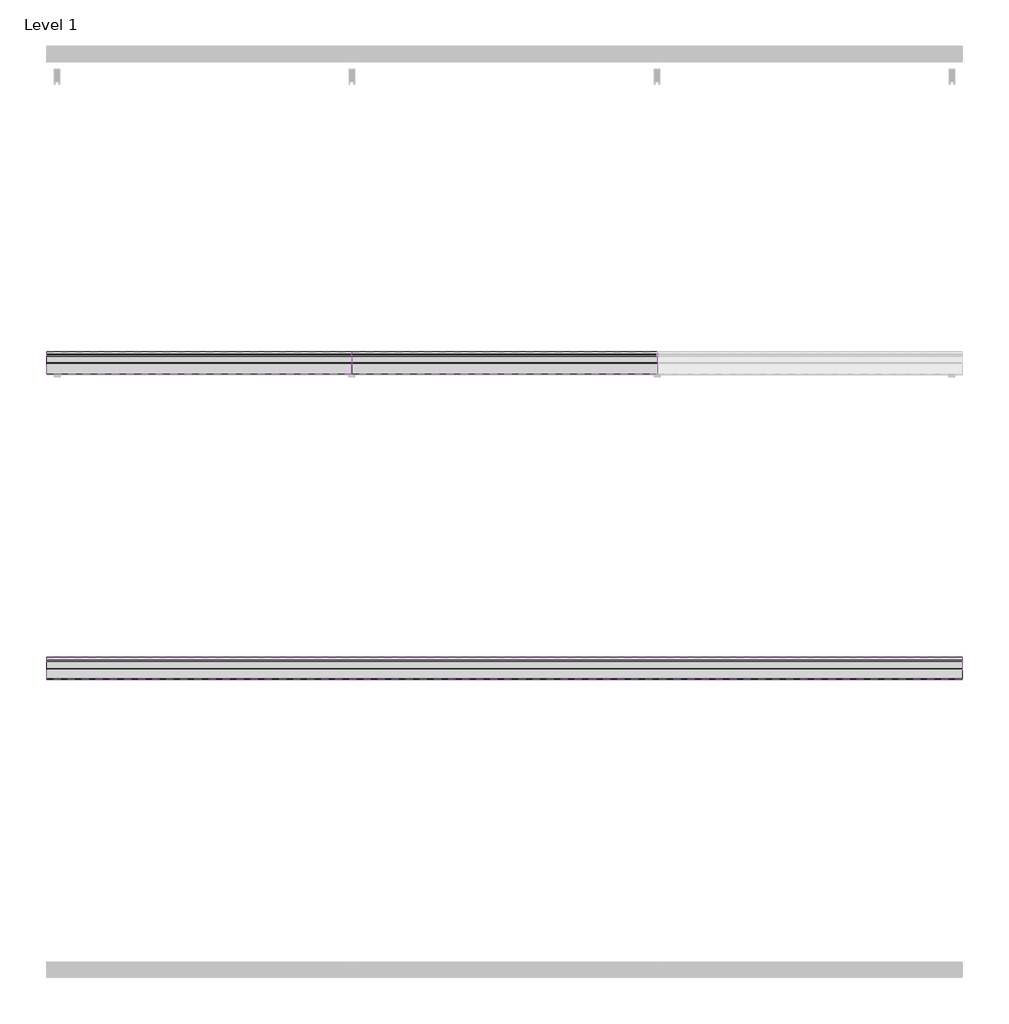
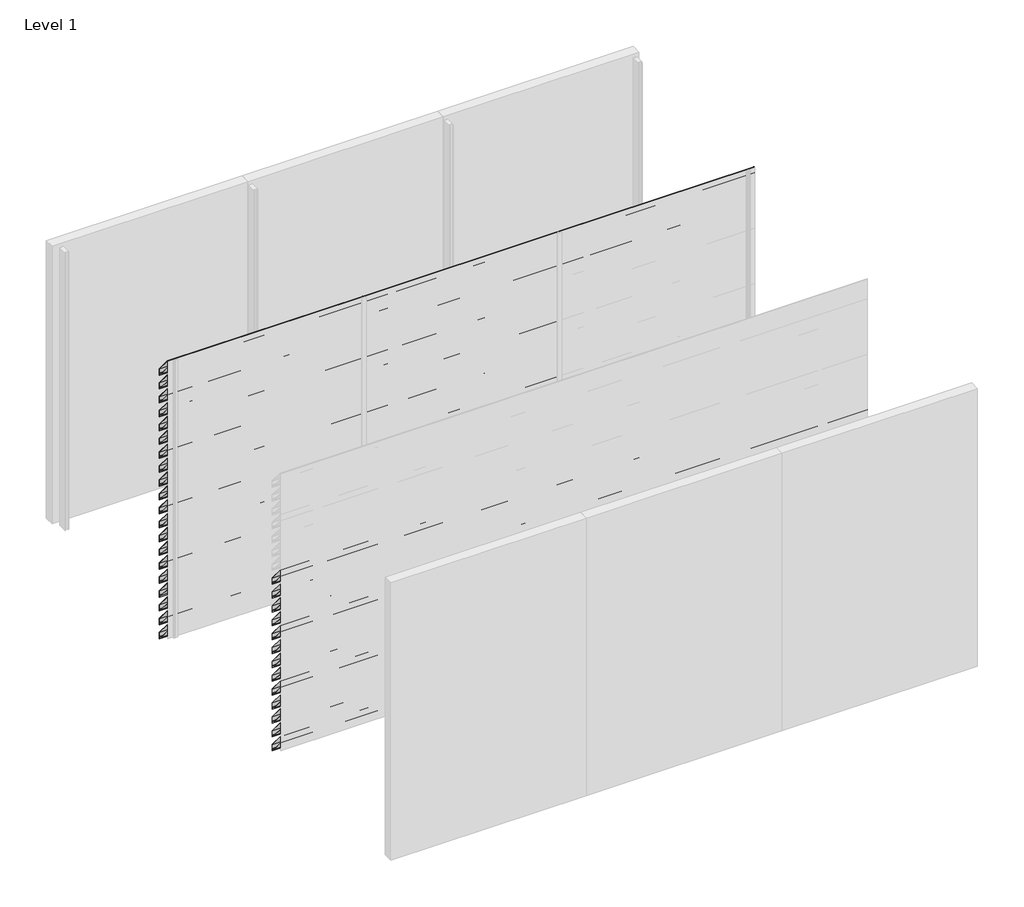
# One storey, part 10 of 16: 56 proxies.
"""IFC4 building model written with IfcOpenShell, lengths in millimetres."""

from ifc_helpers import new_model, si_unit, frame, origin, place, context, project, spatial, polyline, outline, extrude, element, save

model = new_model("IFC4")

# Units and contexts
model_context = context("Model", 3, world=origin())
ifc_project = project(units=[si_unit("LENGTHUNIT", "METRE", prefix="MILLI")], contexts=[model_context])

# Site, building, storey
site = spatial("IfcSite", under=ifc_project)
building = spatial("IfcBuilding", under=site)
storey = spatial("IfcBuildingStorey", under=building, Name="Level 1", Elevation=0.0)

# Proxies
placement = place(None, origin())
element("IfcBuildingElementProxy", 1, Name="Wall Sweeps", at=placement, inside=storey, context=model_context, shape_type="SweptSolid", body=[
    extrude(outline(polyline([(-23851.0, 2830.0), (-23851.0, 2761.0), (-23853.5, 2762.1657691), (-23853.5, 2775.7059843), (-23870.2498671, 2795.6676986), (-23880.9351065, 2795.6676986), (-23998.0, 2935.1802059), (-23998.0, 3000.0), (-23993.6469373, 3000.0), (-23851.0, 2830.0)]), holes=[polyline([(-23996.1, 2998.1), (-23996.1, 2935.8717493), (-23880.049122, 2797.5676986), (-23869.3638825, 2797.5676986), (-23852.9, 2777.9468074), (-23852.9, 2829.3084566), (-23994.5329219, 2998.1), (-23996.1, 2998.1)])]), frame((0.0, 0.0, 0.0), z_axis=(1.0, 0.0, 0.0), x_axis=(0.0, 1.0, 0.0)), (0.0, 0.0, 1.0), 2000.0),
])
element("IfcBuildingElementProxy", 2, Name="Wall Sweeps", at=placement, inside=storey, context=model_context, shape_type="SweptSolid", body=[
    extrude(outline(polyline([(-23851.0, 2680.0), (-23851.0, 2611.0), (-23853.5, 2612.1657691), (-23853.5, 2625.7059843), (-23870.2498671, 2645.6676986), (-23880.9351065, 2645.6676986), (-23998.0, 2785.1802059), (-23998.0, 2850.0), (-23993.6469373, 2850.0), (-23851.0, 2680.0)]), holes=[polyline([(-23996.1, 2848.1), (-23996.1, 2785.8717493), (-23880.049122, 2647.5676986), (-23869.3638825, 2647.5676986), (-23852.9, 2627.9468074), (-23852.9, 2679.3084566), (-23994.5329219, 2848.1), (-23996.1, 2848.1)])]), frame((0.0, 0.0, 0.0), z_axis=(1.0, 0.0, 0.0), x_axis=(0.0, 1.0, 0.0)), (0.0, 0.0, 1.0), 2000.0),
])
element("IfcBuildingElementProxy", 3, Name="Wall Sweeps", at=placement, inside=storey, context=model_context, shape_type="SweptSolid", body=[
    extrude(outline(polyline([(-23851.0, 2530.0), (-23851.0, 2461.0), (-23853.5, 2462.1657691), (-23853.5, 2475.7059843), (-23870.2498671, 2495.6676986), (-23880.9351065, 2495.6676986), (-23998.0, 2635.1802059), (-23998.0, 2700.0), (-23993.6469373, 2700.0), (-23851.0, 2530.0)]), holes=[polyline([(-23996.1, 2698.1), (-23996.1, 2635.8717493), (-23880.049122, 2497.5676986), (-23869.3638825, 2497.5676986), (-23852.9, 2477.9468074), (-23852.9, 2529.3084566), (-23994.5329219, 2698.1), (-23996.1, 2698.1)])]), frame((0.0, 0.0, 0.0), z_axis=(1.0, 0.0, 0.0), x_axis=(0.0, 1.0, 0.0)), (0.0, 0.0, 1.0), 2000.0),
])
element("IfcBuildingElementProxy", 4, Name="Wall Sweeps", at=placement, inside=storey, context=model_context, shape_type="SweptSolid", body=[
    extrude(outline(polyline([(-23851.0, 2380.0), (-23851.0, 2311.0), (-23853.5, 2312.1657691), (-23853.5, 2325.7059843), (-23870.2498671, 2345.6676986), (-23880.9351065, 2345.6676986), (-23998.0, 2485.1802059), (-23998.0, 2550.0), (-23993.6469373, 2550.0), (-23851.0, 2380.0)]), holes=[polyline([(-23996.1, 2548.1), (-23996.1, 2485.8717493), (-23880.049122, 2347.5676986), (-23869.3638825, 2347.5676986), (-23852.9, 2327.9468074), (-23852.9, 2379.3084566), (-23994.5329219, 2548.1), (-23996.1, 2548.1)])]), frame((0.0, 0.0, 0.0), z_axis=(1.0, 0.0, 0.0), x_axis=(0.0, 1.0, 0.0)), (0.0, 0.0, 1.0), 2000.0),
])
element("IfcBuildingElementProxy", 5, Name="Wall Sweeps", at=placement, inside=storey, context=model_context, shape_type="SweptSolid", body=[
    extrude(outline(polyline([(-23851.0, 2230.0), (-23851.0, 2161.0), (-23853.5, 2162.1657691), (-23853.5, 2175.7059843), (-23870.2498671, 2195.6676986), (-23880.9351065, 2195.6676986), (-23998.0, 2335.1802059), (-23998.0, 2400.0), (-23993.6469373, 2400.0), (-23851.0, 2230.0)]), holes=[polyline([(-23996.1, 2398.1), (-23996.1, 2335.8717493), (-23880.049122, 2197.5676986), (-23869.3638825, 2197.5676986), (-23852.9, 2177.9468074), (-23852.9, 2229.3084566), (-23994.5329219, 2398.1), (-23996.1, 2398.1)])]), frame((0.0, 0.0, 0.0), z_axis=(1.0, 0.0, 0.0), x_axis=(0.0, 1.0, 0.0)), (0.0, 0.0, 1.0), 2000.0),
])
element("IfcBuildingElementProxy", 6, Name="Wall Sweeps", at=placement, inside=storey, context=model_context, shape_type="SweptSolid", body=[
    extrude(outline(polyline([(-23851.0, 2080.0), (-23851.0, 2011.0), (-23853.5, 2012.1657691), (-23853.5, 2025.7059843), (-23870.2498671, 2045.6676986), (-23880.9351065, 2045.6676986), (-23998.0, 2185.1802059), (-23998.0, 2250.0), (-23993.6469373, 2250.0), (-23851.0, 2080.0)]), holes=[polyline([(-23996.1, 2248.1), (-23996.1, 2185.8717493), (-23880.049122, 2047.5676986), (-23869.3638825, 2047.5676986), (-23852.9, 2027.9468074), (-23852.9, 2079.3084566), (-23994.5329219, 2248.1), (-23996.1, 2248.1)])]), frame((0.0, 0.0, 0.0), z_axis=(1.0, 0.0, 0.0), x_axis=(0.0, 1.0, 0.0)), (0.0, 0.0, 1.0), 2000.0),
])
element("IfcBuildingElementProxy", 7, Name="Wall Sweeps", at=placement, inside=storey, context=model_context, shape_type="SweptSolid", body=[
    extrude(outline(polyline([(-23851.0, 1930.0), (-23851.0, 1861.0), (-23853.5, 1862.1657691), (-23853.5, 1875.7059843), (-23870.2498671, 1895.6676986), (-23880.9351065, 1895.6676986), (-23998.0, 2035.1802059), (-23998.0, 2100.0), (-23993.6469373, 2100.0), (-23851.0, 1930.0)]), holes=[polyline([(-23996.1, 2098.1), (-23996.1, 2035.8717493), (-23880.049122, 1897.5676986), (-23869.3638825, 1897.5676986), (-23852.9, 1877.9468074), (-23852.9, 1929.3084566), (-23994.5329219, 2098.1), (-23996.1, 2098.1)])]), frame((0.0, 0.0, 0.0), z_axis=(1.0, 0.0, 0.0), x_axis=(0.0, 1.0, 0.0)), (0.0, 0.0, 1.0), 2000.0),
])
element("IfcBuildingElementProxy", 8, Name="Wall Sweeps", at=placement, inside=storey, context=model_context, shape_type="SweptSolid", body=[
    extrude(outline(polyline([(-23851.0, 1780.0), (-23851.0, 1711.0), (-23853.5, 1712.1657691), (-23853.5, 1725.7059843), (-23870.2498671, 1745.6676986), (-23880.9351065, 1745.6676986), (-23998.0, 1885.1802059), (-23998.0, 1950.0), (-23993.6469373, 1950.0), (-23851.0, 1780.0)]), holes=[polyline([(-23996.1, 1948.1), (-23996.1, 1885.8717493), (-23880.049122, 1747.5676986), (-23869.3638825, 1747.5676986), (-23852.9, 1727.9468074), (-23852.9, 1779.3084566), (-23994.5329219, 1948.1), (-23996.1, 1948.1)])]), frame((0.0, 0.0, 0.0), z_axis=(1.0, 0.0, 0.0), x_axis=(0.0, 1.0, 0.0)), (0.0, 0.0, 1.0), 2000.0),
])
element("IfcBuildingElementProxy", 9, Name="Wall Sweeps", at=placement, inside=storey, context=model_context, shape_type="SweptSolid", body=[
    extrude(outline(polyline([(-23851.0, 1630.0), (-23851.0, 1561.0), (-23853.5, 1562.1657691), (-23853.5, 1575.7059843), (-23870.2498671, 1595.6676986), (-23880.9351065, 1595.6676986), (-23998.0, 1735.1802059), (-23998.0, 1800.0), (-23993.6469373, 1800.0), (-23851.0, 1630.0)]), holes=[polyline([(-23996.1, 1798.1), (-23996.1, 1735.8717493), (-23880.049122, 1597.5676986), (-23869.3638825, 1597.5676986), (-23852.9, 1577.9468074), (-23852.9, 1629.3084566), (-23994.5329219, 1798.1), (-23996.1, 1798.1)])]), frame((0.0, 0.0, 0.0), z_axis=(1.0, 0.0, 0.0), x_axis=(0.0, 1.0, 0.0)), (0.0, 0.0, 1.0), 2000.0),
])
element("IfcBuildingElementProxy", 10, Name="Wall Sweeps", at=placement, inside=storey, context=model_context, shape_type="SweptSolid", body=[
    extrude(outline(polyline([(-23851.0, 1480.0), (-23851.0, 1411.0), (-23853.5, 1412.1657691), (-23853.5, 1425.7059843), (-23870.2498671, 1445.6676986), (-23880.9351065, 1445.6676986), (-23998.0, 1585.1802059), (-23998.0, 1650.0), (-23993.6469373, 1650.0), (-23851.0, 1480.0)]), holes=[polyline([(-23996.1, 1648.1), (-23996.1, 1585.8717493), (-23880.049122, 1447.5676986), (-23869.3638825, 1447.5676986), (-23852.9, 1427.9468074), (-23852.9, 1479.3084566), (-23994.5329219, 1648.1), (-23996.1, 1648.1)])]), frame((0.0, 0.0, 0.0), z_axis=(1.0, 0.0, 0.0), x_axis=(0.0, 1.0, 0.0)), (0.0, 0.0, 1.0), 2000.0),
])
element("IfcBuildingElementProxy", 11, Name="Wall Sweeps", at=placement, inside=storey, context=model_context, shape_type="SweptSolid", body=[
    extrude(outline(polyline([(-23851.0, 1330.0), (-23851.0, 1261.0), (-23853.5, 1262.1657691), (-23853.5, 1275.7059843), (-23870.2498671, 1295.6676986), (-23880.9351065, 1295.6676986), (-23998.0, 1435.1802059), (-23998.0, 1500.0), (-23993.6469373, 1500.0), (-23851.0, 1330.0)]), holes=[polyline([(-23996.1, 1498.1), (-23996.1, 1435.8717493), (-23880.049122, 1297.5676986), (-23869.3638825, 1297.5676986), (-23852.9, 1277.9468074), (-23852.9, 1329.3084566), (-23994.5329219, 1498.1), (-23996.1, 1498.1)])]), frame((0.0, 0.0, 0.0), z_axis=(1.0, 0.0, 0.0), x_axis=(0.0, 1.0, 0.0)), (0.0, 0.0, 1.0), 2000.0),
])
element("IfcBuildingElementProxy", 12, Name="Wall Sweeps", at=placement, inside=storey, context=model_context, shape_type="SweptSolid", body=[
    extrude(outline(polyline([(-23851.0, 1180.0), (-23851.0, 1111.0), (-23853.5, 1112.1657691), (-23853.5, 1125.7059843), (-23870.2498671, 1145.6676986), (-23880.9351065, 1145.6676986), (-23998.0, 1285.1802059), (-23998.0, 1350.0), (-23993.6469373, 1350.0), (-23851.0, 1180.0)]), holes=[polyline([(-23996.1, 1348.1), (-23996.1, 1285.8717493), (-23880.049122, 1147.5676986), (-23869.3638825, 1147.5676986), (-23852.9, 1127.9468074), (-23852.9, 1179.3084566), (-23994.5329219, 1348.1), (-23996.1, 1348.1)])]), frame((0.0, 0.0, 0.0), z_axis=(1.0, 0.0, 0.0), x_axis=(0.0, 1.0, 0.0)), (0.0, 0.0, 1.0), 2000.0),
])
element("IfcBuildingElementProxy", 13, Name="Wall Sweeps", at=placement, inside=storey, context=model_context, shape_type="SweptSolid", body=[
    extrude(outline(polyline([(-23851.0, 1030.0), (-23851.0, 961.0), (-23853.5, 962.1657691), (-23853.5, 975.7059843), (-23870.2498671, 995.6676986), (-23880.9351065, 995.6676986), (-23998.0, 1135.1802059), (-23998.0, 1200.0), (-23993.6469373, 1200.0), (-23851.0, 1030.0)]), holes=[polyline([(-23996.1, 1198.1), (-23996.1, 1135.8717493), (-23880.049122, 997.5676986), (-23869.3638825, 997.5676986), (-23852.9, 977.9468074), (-23852.9, 1029.3084566), (-23994.5329219, 1198.1), (-23996.1, 1198.1)])]), frame((0.0, 0.0, 0.0), z_axis=(1.0, 0.0, 0.0), x_axis=(0.0, 1.0, 0.0)), (0.0, 0.0, 1.0), 2000.0),
])
element("IfcBuildingElementProxy", 14, Name="Wall Sweeps", at=placement, inside=storey, context=model_context, shape_type="SweptSolid", body=[
    extrude(outline(polyline([(-23851.0, 880.0), (-23851.0, 811.0), (-23853.5, 812.1657691), (-23853.5, 825.7059843), (-23870.2498671, 845.6676986), (-23880.9351065, 845.6676986), (-23998.0, 985.1802059), (-23998.0, 1050.0), (-23993.6469373, 1050.0), (-23851.0, 880.0)]), holes=[polyline([(-23996.1, 1048.1), (-23996.1, 985.8717493), (-23880.049122, 847.5676986), (-23869.3638825, 847.5676986), (-23852.9, 827.9468074), (-23852.9, 879.3084566), (-23994.5329219, 1048.1), (-23996.1, 1048.1)])]), frame((0.0, 0.0, 0.0), z_axis=(1.0, 0.0, 0.0), x_axis=(0.0, 1.0, 0.0)), (0.0, 0.0, 1.0), 2000.0),
])
element("IfcBuildingElementProxy", 15, Name="Wall Sweeps", at=placement, inside=storey, context=model_context, shape_type="SweptSolid", body=[
    extrude(outline(polyline([(-23851.0, 730.0), (-23851.0, 661.0), (-23853.5, 662.1657691), (-23853.5, 675.7059843), (-23870.2498671, 695.6676986), (-23880.9351065, 695.6676986), (-23998.0, 835.1802059), (-23998.0, 900.0), (-23993.6469373, 900.0), (-23851.0, 730.0)]), holes=[polyline([(-23996.1, 898.1), (-23996.1, 835.8717493), (-23880.049122, 697.5676986), (-23869.3638825, 697.5676986), (-23852.9, 677.9468074), (-23852.9, 729.3084566), (-23994.5329219, 898.1), (-23996.1, 898.1)])]), frame((0.0, 0.0, 0.0), z_axis=(1.0, 0.0, 0.0), x_axis=(0.0, 1.0, 0.0)), (0.0, 0.0, 1.0), 2000.0),
])
element("IfcBuildingElementProxy", 16, Name="Wall Sweeps", at=placement, inside=storey, context=model_context, shape_type="SweptSolid", body=[
    extrude(outline(polyline([(-23851.0, 580.0), (-23851.0, 511.0), (-23853.5, 512.1657691), (-23853.5, 525.7059843), (-23870.2498671, 545.6676986), (-23880.9351065, 545.6676986), (-23998.0, 685.1802059), (-23998.0, 750.0), (-23993.6469373, 750.0), (-23851.0, 580.0)]), holes=[polyline([(-23996.1, 748.1), (-23996.1, 685.8717493), (-23880.049122, 547.5676986), (-23869.3638825, 547.5676986), (-23852.9, 527.9468074), (-23852.9, 579.3084566), (-23994.5329219, 748.1), (-23996.1, 748.1)])]), frame((0.0, 0.0, 0.0), z_axis=(1.0, 0.0, 0.0), x_axis=(0.0, 1.0, 0.0)), (0.0, 0.0, 1.0), 2000.0),
])
element("IfcBuildingElementProxy", 17, Name="Wall Sweeps", at=placement, inside=storey, context=model_context, shape_type="SweptSolid", body=[
    extrude(outline(polyline([(-23851.0, 430.0), (-23851.0, 361.0), (-23853.5, 362.1657691), (-23853.5, 375.7059843), (-23870.2498671, 395.6676986), (-23880.9351065, 395.6676986), (-23998.0, 535.1802059), (-23998.0, 600.0), (-23993.6469373, 600.0), (-23851.0, 430.0)]), holes=[polyline([(-23996.1, 598.1), (-23996.1, 535.8717493), (-23880.049122, 397.5676986), (-23869.3638825, 397.5676986), (-23852.9, 377.9468074), (-23852.9, 429.3084566), (-23994.5329219, 598.1), (-23996.1, 598.1)])]), frame((0.0, 0.0, 0.0), z_axis=(1.0, 0.0, 0.0), x_axis=(0.0, 1.0, 0.0)), (0.0, 0.0, 1.0), 2000.0),
])
element("IfcBuildingElementProxy", 18, Name="Wall Sweeps", at=placement, inside=storey, context=model_context, shape_type="SweptSolid", body=[
    extrude(outline(polyline([(-23851.0, 280.0), (-23851.0, 211.0), (-23853.5, 212.1657691), (-23853.5, 225.7059843), (-23870.2498671, 245.6676986), (-23880.9351065, 245.6676986), (-23998.0, 385.1802059), (-23998.0, 450.0), (-23993.6469373, 450.0), (-23851.0, 280.0)]), holes=[polyline([(-23996.1, 448.1), (-23996.1, 385.8717493), (-23880.049122, 247.5676986), (-23869.3638825, 247.5676986), (-23852.9, 227.9468074), (-23852.9, 279.3084566), (-23994.5329219, 448.1), (-23996.1, 448.1)])]), frame((0.0, 0.0, 0.0), z_axis=(1.0, 0.0, 0.0), x_axis=(0.0, 1.0, 0.0)), (0.0, 0.0, 1.0), 2000.0),
])
element("IfcBuildingElementProxy", 19, Name="Wall Sweeps", at=placement, inside=storey, context=model_context, shape_type="SweptSolid", body=[
    extrude(outline(polyline([(-23851.0, 130.0), (-23851.0, 61.0), (-23853.5, 62.1657691), (-23853.5, 75.7059843), (-23870.2498671, 95.6676986), (-23880.9351065, 95.6676986), (-23998.0, 235.1802059), (-23998.0, 300.0), (-23993.6469373, 300.0), (-23851.0, 130.0)]), holes=[polyline([(-23996.1, 298.1), (-23996.1, 235.8717493), (-23880.049122, 97.5676986), (-23869.3638825, 97.5676986), (-23852.9, 77.9468074), (-23852.9, 129.3084566), (-23994.5329219, 298.1), (-23996.1, 298.1)])]), frame((0.0, 0.0, 0.0), z_axis=(1.0, 0.0, 0.0), x_axis=(0.0, 1.0, 0.0)), (0.0, 0.0, 1.0), 2000.0),
])
element("IfcBuildingElementProxy", 20, Name="Wall Sweeps", at=placement, inside=storey, context=model_context, shape_type="SweptSolid", body=[
    extrude(outline(polyline([(-23851.0, -20.0), (-23851.0, -89.0), (-23853.5, -87.8342309), (-23853.5, -74.2940157), (-23870.2498671, -54.3323014), (-23880.9351065, -54.3323014), (-23998.0, 85.1802059), (-23998.0, 150.0), (-23993.6469373, 150.0), (-23851.0, -20.0)]), holes=[polyline([(-23996.1, 148.1), (-23996.1, 85.8717493), (-23880.049122, -52.4323014), (-23869.3638825, -52.4323014), (-23852.9, -72.0531926), (-23852.9, -20.6915434), (-23994.5329219, 148.1), (-23996.1, 148.1)])]), frame((0.0, 0.0, 0.0), z_axis=(1.0, 0.0, 0.0), x_axis=(0.0, 1.0, 0.0)), (0.0, 0.0, 1.0), 2000.0),
])
element("IfcBuildingElementProxy", 21, Name="Wall Sweeps", at=placement, inside=storey, context=model_context, shape_type="SweptSolid", body=[
    extrude(outline(polyline([(-23851.0, 2830.0), (-23851.0, 2761.0), (-23853.5, 2762.1657691), (-23853.5, 2775.7059843), (-23870.2498671, 2795.6676986), (-23880.9351065, 2795.6676986), (-23998.0, 2935.1802059), (-23998.0, 3000.0), (-23993.6469373, 3000.0), (-23851.0, 2830.0)]), holes=[polyline([(-23996.1, 2998.1), (-23996.1, 2935.8717493), (-23880.049122, 2797.5676986), (-23869.3638825, 2797.5676986), (-23852.9, 2777.9468074), (-23852.9, 2829.3084566), (-23994.5329219, 2998.1), (-23996.1, 2998.1)])]), frame((2000.0, 0.0, 0.0), z_axis=(1.0, 0.0, 0.0), x_axis=(0.0, 1.0, 0.0)), (0.0, 0.0, 1.0), 2000.0),
])
element("IfcBuildingElementProxy", 22, Name="Wall Sweeps", at=placement, inside=storey, context=model_context, shape_type="SweptSolid", body=[
    extrude(outline(polyline([(-23851.0, 2680.0), (-23851.0, 2611.0), (-23853.5, 2612.1657691), (-23853.5, 2625.7059843), (-23870.2498671, 2645.6676986), (-23880.9351065, 2645.6676986), (-23998.0, 2785.1802059), (-23998.0, 2850.0), (-23993.6469373, 2850.0), (-23851.0, 2680.0)]), holes=[polyline([(-23996.1, 2848.1), (-23996.1, 2785.8717493), (-23880.049122, 2647.5676986), (-23869.3638825, 2647.5676986), (-23852.9, 2627.9468074), (-23852.9, 2679.3084566), (-23994.5329219, 2848.1), (-23996.1, 2848.1)])]), frame((2000.0, 0.0, 0.0), z_axis=(1.0, 0.0, 0.0), x_axis=(0.0, 1.0, 0.0)), (0.0, 0.0, 1.0), 2000.0),
])
element("IfcBuildingElementProxy", 23, Name="Wall Sweeps", at=placement, inside=storey, context=model_context, shape_type="SweptSolid", body=[
    extrude(outline(polyline([(-23851.0, 2530.0), (-23851.0, 2461.0), (-23853.5, 2462.1657691), (-23853.5, 2475.7059843), (-23870.2498671, 2495.6676986), (-23880.9351065, 2495.6676986), (-23998.0, 2635.1802059), (-23998.0, 2700.0), (-23993.6469373, 2700.0), (-23851.0, 2530.0)]), holes=[polyline([(-23996.1, 2698.1), (-23996.1, 2635.8717493), (-23880.049122, 2497.5676986), (-23869.3638825, 2497.5676986), (-23852.9, 2477.9468074), (-23852.9, 2529.3084566), (-23994.5329219, 2698.1), (-23996.1, 2698.1)])]), frame((2000.0, 0.0, 0.0), z_axis=(1.0, 0.0, 0.0), x_axis=(0.0, 1.0, 0.0)), (0.0, 0.0, 1.0), 2000.0),
])
element("IfcBuildingElementProxy", 24, Name="Wall Sweeps", at=placement, inside=storey, context=model_context, shape_type="SweptSolid", body=[
    extrude(outline(polyline([(-23851.0, 2380.0), (-23851.0, 2311.0), (-23853.5, 2312.1657691), (-23853.5, 2325.7059843), (-23870.2498671, 2345.6676986), (-23880.9351065, 2345.6676986), (-23998.0, 2485.1802059), (-23998.0, 2550.0), (-23993.6469373, 2550.0), (-23851.0, 2380.0)]), holes=[polyline([(-23996.1, 2548.1), (-23996.1, 2485.8717493), (-23880.049122, 2347.5676986), (-23869.3638825, 2347.5676986), (-23852.9, 2327.9468074), (-23852.9, 2379.3084566), (-23994.5329219, 2548.1), (-23996.1, 2548.1)])]), frame((2000.0, 0.0, 0.0), z_axis=(1.0, 0.0, 0.0), x_axis=(0.0, 1.0, 0.0)), (0.0, 0.0, 1.0), 2000.0),
])
element("IfcBuildingElementProxy", 25, Name="Wall Sweeps", at=placement, inside=storey, context=model_context, shape_type="SweptSolid", body=[
    extrude(outline(polyline([(-23851.0, 2230.0), (-23851.0, 2161.0), (-23853.5, 2162.1657691), (-23853.5, 2175.7059843), (-23870.2498671, 2195.6676986), (-23880.9351065, 2195.6676986), (-23998.0, 2335.1802059), (-23998.0, 2400.0), (-23993.6469373, 2400.0), (-23851.0, 2230.0)]), holes=[polyline([(-23996.1, 2398.1), (-23996.1, 2335.8717493), (-23880.049122, 2197.5676986), (-23869.3638825, 2197.5676986), (-23852.9, 2177.9468074), (-23852.9, 2229.3084566), (-23994.5329219, 2398.1), (-23996.1, 2398.1)])]), frame((2000.0, 0.0, 0.0), z_axis=(1.0, 0.0, 0.0), x_axis=(0.0, 1.0, 0.0)), (0.0, 0.0, 1.0), 2000.0),
])
element("IfcBuildingElementProxy", 26, Name="Wall Sweeps", at=placement, inside=storey, context=model_context, shape_type="SweptSolid", body=[
    extrude(outline(polyline([(-23851.0, 2080.0), (-23851.0, 2011.0), (-23853.5, 2012.1657691), (-23853.5, 2025.7059843), (-23870.2498671, 2045.6676986), (-23880.9351065, 2045.6676986), (-23998.0, 2185.1802059), (-23998.0, 2250.0), (-23993.6469373, 2250.0), (-23851.0, 2080.0)]), holes=[polyline([(-23996.1, 2248.1), (-23996.1, 2185.8717493), (-23880.049122, 2047.5676986), (-23869.3638825, 2047.5676986), (-23852.9, 2027.9468074), (-23852.9, 2079.3084566), (-23994.5329219, 2248.1), (-23996.1, 2248.1)])]), frame((2000.0, 0.0, 0.0), z_axis=(1.0, 0.0, 0.0), x_axis=(0.0, 1.0, 0.0)), (0.0, 0.0, 1.0), 2000.0),
])
element("IfcBuildingElementProxy", 27, Name="Wall Sweeps", at=placement, inside=storey, context=model_context, shape_type="SweptSolid", body=[
    extrude(outline(polyline([(-23851.0, 1930.0), (-23851.0, 1861.0), (-23853.5, 1862.1657691), (-23853.5, 1875.7059843), (-23870.2498671, 1895.6676986), (-23880.9351065, 1895.6676986), (-23998.0, 2035.1802059), (-23998.0, 2100.0), (-23993.6469373, 2100.0), (-23851.0, 1930.0)]), holes=[polyline([(-23996.1, 2098.1), (-23996.1, 2035.8717493), (-23880.049122, 1897.5676986), (-23869.3638825, 1897.5676986), (-23852.9, 1877.9468074), (-23852.9, 1929.3084566), (-23994.5329219, 2098.1), (-23996.1, 2098.1)])]), frame((2000.0, 0.0, 0.0), z_axis=(1.0, 0.0, 0.0), x_axis=(0.0, 1.0, 0.0)), (0.0, 0.0, 1.0), 2000.0),
])
element("IfcBuildingElementProxy", 28, Name="Wall Sweeps", at=placement, inside=storey, context=model_context, shape_type="SweptSolid", body=[
    extrude(outline(polyline([(-23851.0, 1780.0), (-23851.0, 1711.0), (-23853.5, 1712.1657691), (-23853.5, 1725.7059843), (-23870.2498671, 1745.6676986), (-23880.9351065, 1745.6676986), (-23998.0, 1885.1802059), (-23998.0, 1950.0), (-23993.6469373, 1950.0), (-23851.0, 1780.0)]), holes=[polyline([(-23996.1, 1948.1), (-23996.1, 1885.8717493), (-23880.049122, 1747.5676986), (-23869.3638825, 1747.5676986), (-23852.9, 1727.9468074), (-23852.9, 1779.3084566), (-23994.5329219, 1948.1), (-23996.1, 1948.1)])]), frame((2000.0, 0.0, 0.0), z_axis=(1.0, 0.0, 0.0), x_axis=(0.0, 1.0, 0.0)), (0.0, 0.0, 1.0), 2000.0),
])
element("IfcBuildingElementProxy", 29, Name="Wall Sweeps", at=placement, inside=storey, context=model_context, shape_type="SweptSolid", body=[
    extrude(outline(polyline([(-23851.0, 1630.0), (-23851.0, 1561.0), (-23853.5, 1562.1657691), (-23853.5, 1575.7059843), (-23870.2498671, 1595.6676986), (-23880.9351065, 1595.6676986), (-23998.0, 1735.1802059), (-23998.0, 1800.0), (-23993.6469373, 1800.0), (-23851.0, 1630.0)]), holes=[polyline([(-23996.1, 1798.1), (-23996.1, 1735.8717493), (-23880.049122, 1597.5676986), (-23869.3638825, 1597.5676986), (-23852.9, 1577.9468074), (-23852.9, 1629.3084566), (-23994.5329219, 1798.1), (-23996.1, 1798.1)])]), frame((2000.0, 0.0, 0.0), z_axis=(1.0, 0.0, 0.0), x_axis=(0.0, 1.0, 0.0)), (0.0, 0.0, 1.0), 2000.0),
])
element("IfcBuildingElementProxy", 30, Name="Wall Sweeps", at=placement, inside=storey, context=model_context, shape_type="SweptSolid", body=[
    extrude(outline(polyline([(-23851.0, 1480.0), (-23851.0, 1411.0), (-23853.5, 1412.1657691), (-23853.5, 1425.7059843), (-23870.2498671, 1445.6676986), (-23880.9351065, 1445.6676986), (-23998.0, 1585.1802059), (-23998.0, 1650.0), (-23993.6469373, 1650.0), (-23851.0, 1480.0)]), holes=[polyline([(-23996.1, 1648.1), (-23996.1, 1585.8717493), (-23880.049122, 1447.5676986), (-23869.3638825, 1447.5676986), (-23852.9, 1427.9468074), (-23852.9, 1479.3084566), (-23994.5329219, 1648.1), (-23996.1, 1648.1)])]), frame((2000.0, 0.0, 0.0), z_axis=(1.0, 0.0, 0.0), x_axis=(0.0, 1.0, 0.0)), (0.0, 0.0, 1.0), 2000.0),
])
element("IfcBuildingElementProxy", 31, Name="Wall Sweeps", at=placement, inside=storey, context=model_context, shape_type="SweptSolid", body=[
    extrude(outline(polyline([(-23851.0, 1330.0), (-23851.0, 1261.0), (-23853.5, 1262.1657691), (-23853.5, 1275.7059843), (-23870.2498671, 1295.6676986), (-23880.9351065, 1295.6676986), (-23998.0, 1435.1802059), (-23998.0, 1500.0), (-23993.6469373, 1500.0), (-23851.0, 1330.0)]), holes=[polyline([(-23996.1, 1498.1), (-23996.1, 1435.8717493), (-23880.049122, 1297.5676986), (-23869.3638825, 1297.5676986), (-23852.9, 1277.9468074), (-23852.9, 1329.3084566), (-23994.5329219, 1498.1), (-23996.1, 1498.1)])]), frame((2000.0, 0.0, 0.0), z_axis=(1.0, 0.0, 0.0), x_axis=(0.0, 1.0, 0.0)), (0.0, 0.0, 1.0), 2000.0),
])
element("IfcBuildingElementProxy", 32, Name="Wall Sweeps", at=placement, inside=storey, context=model_context, shape_type="SweptSolid", body=[
    extrude(outline(polyline([(-23851.0, 1180.0), (-23851.0, 1111.0), (-23853.5, 1112.1657691), (-23853.5, 1125.7059843), (-23870.2498671, 1145.6676986), (-23880.9351065, 1145.6676986), (-23998.0, 1285.1802059), (-23998.0, 1350.0), (-23993.6469373, 1350.0), (-23851.0, 1180.0)]), holes=[polyline([(-23996.1, 1348.1), (-23996.1, 1285.8717493), (-23880.049122, 1147.5676986), (-23869.3638825, 1147.5676986), (-23852.9, 1127.9468074), (-23852.9, 1179.3084566), (-23994.5329219, 1348.1), (-23996.1, 1348.1)])]), frame((2000.0, 0.0, 0.0), z_axis=(1.0, 0.0, 0.0), x_axis=(0.0, 1.0, 0.0)), (0.0, 0.0, 1.0), 2000.0),
])
element("IfcBuildingElementProxy", 33, Name="Wall Sweeps", at=placement, inside=storey, context=model_context, shape_type="SweptSolid", body=[
    extrude(outline(polyline([(-23851.0, 1030.0), (-23851.0, 961.0), (-23853.5, 962.1657691), (-23853.5, 975.7059843), (-23870.2498671, 995.6676986), (-23880.9351065, 995.6676986), (-23998.0, 1135.1802059), (-23998.0, 1200.0), (-23993.6469373, 1200.0), (-23851.0, 1030.0)]), holes=[polyline([(-23996.1, 1198.1), (-23996.1, 1135.8717493), (-23880.049122, 997.5676986), (-23869.3638825, 997.5676986), (-23852.9, 977.9468074), (-23852.9, 1029.3084566), (-23994.5329219, 1198.1), (-23996.1, 1198.1)])]), frame((2000.0, 0.0, 0.0), z_axis=(1.0, 0.0, 0.0), x_axis=(0.0, 1.0, 0.0)), (0.0, 0.0, 1.0), 2000.0),
])
element("IfcBuildingElementProxy", 34, Name="Wall Sweeps", at=placement, inside=storey, context=model_context, shape_type="SweptSolid", body=[
    extrude(outline(polyline([(-23851.0, 880.0), (-23851.0, 811.0), (-23853.5, 812.1657691), (-23853.5, 825.7059843), (-23870.2498671, 845.6676986), (-23880.9351065, 845.6676986), (-23998.0, 985.1802059), (-23998.0, 1050.0), (-23993.6469373, 1050.0), (-23851.0, 880.0)]), holes=[polyline([(-23996.1, 1048.1), (-23996.1, 985.8717493), (-23880.049122, 847.5676986), (-23869.3638825, 847.5676986), (-23852.9, 827.9468074), (-23852.9, 879.3084566), (-23994.5329219, 1048.1), (-23996.1, 1048.1)])]), frame((2000.0, 0.0, 0.0), z_axis=(1.0, 0.0, 0.0), x_axis=(0.0, 1.0, 0.0)), (0.0, 0.0, 1.0), 2000.0),
])
element("IfcBuildingElementProxy", 35, Name="Wall Sweeps", at=placement, inside=storey, context=model_context, shape_type="SweptSolid", body=[
    extrude(outline(polyline([(-23851.0, 730.0), (-23851.0, 661.0), (-23853.5, 662.1657691), (-23853.5, 675.7059843), (-23870.2498671, 695.6676986), (-23880.9351065, 695.6676986), (-23998.0, 835.1802059), (-23998.0, 900.0), (-23993.6469373, 900.0), (-23851.0, 730.0)]), holes=[polyline([(-23996.1, 898.1), (-23996.1, 835.8717493), (-23880.049122, 697.5676986), (-23869.3638825, 697.5676986), (-23852.9, 677.9468074), (-23852.9, 729.3084566), (-23994.5329219, 898.1), (-23996.1, 898.1)])]), frame((2000.0, 0.0, 0.0), z_axis=(1.0, 0.0, 0.0), x_axis=(0.0, 1.0, 0.0)), (0.0, 0.0, 1.0), 2000.0),
])
element("IfcBuildingElementProxy", 36, Name="Wall Sweeps", at=placement, inside=storey, context=model_context, shape_type="SweptSolid", body=[
    extrude(outline(polyline([(-23851.0, 580.0), (-23851.0, 511.0), (-23853.5, 512.1657691), (-23853.5, 525.7059843), (-23870.2498671, 545.6676986), (-23880.9351065, 545.6676986), (-23998.0, 685.1802059), (-23998.0, 750.0), (-23993.6469373, 750.0), (-23851.0, 580.0)]), holes=[polyline([(-23996.1, 748.1), (-23996.1, 685.8717493), (-23880.049122, 547.5676986), (-23869.3638825, 547.5676986), (-23852.9, 527.9468074), (-23852.9, 579.3084566), (-23994.5329219, 748.1), (-23996.1, 748.1)])]), frame((2000.0, 0.0, 0.0), z_axis=(1.0, 0.0, 0.0), x_axis=(0.0, 1.0, 0.0)), (0.0, 0.0, 1.0), 2000.0),
])
element("IfcBuildingElementProxy", 37, Name="Wall Sweeps", at=placement, inside=storey, context=model_context, shape_type="SweptSolid", body=[
    extrude(outline(polyline([(-23851.0, 430.0), (-23851.0, 361.0), (-23853.5, 362.1657691), (-23853.5, 375.7059843), (-23870.2498671, 395.6676986), (-23880.9351065, 395.6676986), (-23998.0, 535.1802059), (-23998.0, 600.0), (-23993.6469373, 600.0), (-23851.0, 430.0)]), holes=[polyline([(-23996.1, 598.1), (-23996.1, 535.8717493), (-23880.049122, 397.5676986), (-23869.3638825, 397.5676986), (-23852.9, 377.9468074), (-23852.9, 429.3084566), (-23994.5329219, 598.1), (-23996.1, 598.1)])]), frame((2000.0, 0.0, 0.0), z_axis=(1.0, 0.0, 0.0), x_axis=(0.0, 1.0, 0.0)), (0.0, 0.0, 1.0), 2000.0),
])
element("IfcBuildingElementProxy", 38, Name="Wall Sweeps", at=placement, inside=storey, context=model_context, shape_type="SweptSolid", body=[
    extrude(outline(polyline([(-23851.0, 280.0), (-23851.0, 211.0), (-23853.5, 212.1657691), (-23853.5, 225.7059843), (-23870.2498671, 245.6676986), (-23880.9351065, 245.6676986), (-23998.0, 385.1802059), (-23998.0, 450.0), (-23993.6469373, 450.0), (-23851.0, 280.0)]), holes=[polyline([(-23996.1, 448.1), (-23996.1, 385.8717493), (-23880.049122, 247.5676986), (-23869.3638825, 247.5676986), (-23852.9, 227.9468074), (-23852.9, 279.3084566), (-23994.5329219, 448.1), (-23996.1, 448.1)])]), frame((2000.0, 0.0, 0.0), z_axis=(1.0, 0.0, 0.0), x_axis=(0.0, 1.0, 0.0)), (0.0, 0.0, 1.0), 2000.0),
])
element("IfcBuildingElementProxy", 39, Name="Wall Sweeps", at=placement, inside=storey, context=model_context, shape_type="SweptSolid", body=[
    extrude(outline(polyline([(-23851.0, 130.0), (-23851.0, 61.0), (-23853.5, 62.1657691), (-23853.5, 75.7059843), (-23870.2498671, 95.6676986), (-23880.9351065, 95.6676986), (-23998.0, 235.1802059), (-23998.0, 300.0), (-23993.6469373, 300.0), (-23851.0, 130.0)]), holes=[polyline([(-23996.1, 298.1), (-23996.1, 235.8717493), (-23880.049122, 97.5676986), (-23869.3638825, 97.5676986), (-23852.9, 77.9468074), (-23852.9, 129.3084566), (-23994.5329219, 298.1), (-23996.1, 298.1)])]), frame((2000.0, 0.0, 0.0), z_axis=(1.0, 0.0, 0.0), x_axis=(0.0, 1.0, 0.0)), (0.0, 0.0, 1.0), 2000.0),
])
element("IfcBuildingElementProxy", 40, Name="Wall Sweeps", at=placement, inside=storey, context=model_context, shape_type="SweptSolid", body=[
    extrude(outline(polyline([(-23851.0, -20.0), (-23851.0, -89.0), (-23853.5, -87.8342309), (-23853.5, -74.2940157), (-23870.2498671, -54.3323014), (-23880.9351065, -54.3323014), (-23998.0, 85.1802059), (-23998.0, 150.0), (-23993.6469373, 150.0), (-23851.0, -20.0)]), holes=[polyline([(-23996.1, 148.1), (-23996.1, 85.8717493), (-23880.049122, -52.4323014), (-23869.3638825, -52.4323014), (-23852.9, -72.0531926), (-23852.9, -20.6915434), (-23994.5329219, 148.1), (-23996.1, 148.1)])]), frame((2000.0, 0.0, 0.0), z_axis=(1.0, 0.0, 0.0), x_axis=(0.0, 1.0, 0.0)), (0.0, 0.0, 1.0), 2000.0),
])
element("IfcBuildingElementProxy", 41, Name="Wall Sweeps", at=placement, inside=storey, context=model_context, shape_type="SweptSolid", body=[
    extrude(outline(polyline([(-23851.0, 2830.0), (-23851.0, 2761.0), (-23853.5, 2762.1657691), (-23853.5, 2775.7059843), (-23870.2498671, 2795.6676986), (-23880.9351065, 2795.6676986), (-23998.0, 2935.1802059), (-23998.0, 3000.0), (-23993.6469373, 3000.0), (-23851.0, 2830.0)]), holes=[polyline([(-23996.1, 2998.1), (-23996.1, 2935.8717493), (-23880.049122, 2797.5676986), (-23869.3638825, 2797.5676986), (-23852.9, 2777.9468074), (-23852.9, 2829.3084566), (-23994.5329219, 2998.1), (-23996.1, 2998.1)])]), frame((4000.0, 0.0, 0.0), z_axis=(1.0, 0.0, 0.0), x_axis=(0.0, 1.0, 0.0)), (0.0, 0.0, 1.0), 2000.0),
])
element("IfcBuildingElementProxy", 42, Name="Wall Sweeps", at=placement, inside=storey, context=model_context, shape_type="SweptSolid", body=[
    extrude(outline(polyline([(-23851.0, 2680.0), (-23851.0, 2611.0), (-23853.5, 2612.1657691), (-23853.5, 2625.7059843), (-23870.2498671, 2645.6676986), (-23880.9351065, 2645.6676986), (-23998.0, 2785.1802059), (-23998.0, 2850.0), (-23993.6469373, 2850.0), (-23851.0, 2680.0)]), holes=[polyline([(-23996.1, 2848.1), (-23996.1, 2785.8717493), (-23880.049122, 2647.5676986), (-23869.3638825, 2647.5676986), (-23852.9, 2627.9468074), (-23852.9, 2679.3084566), (-23994.5329219, 2848.1), (-23996.1, 2848.1)])]), frame((4000.0, 0.0, 0.0), z_axis=(1.0, 0.0, 0.0), x_axis=(0.0, 1.0, 0.0)), (0.0, 0.0, 1.0), 2000.0),
])
element("IfcBuildingElementProxy", 43, Name="Wall Sweeps", at=placement, inside=storey, context=model_context, shape_type="SweptSolid", body=[
    extrude(outline(polyline([(-23851.0, 2530.0), (-23851.0, 2461.0), (-23853.5, 2462.1657691), (-23853.5, 2475.7059843), (-23870.2498671, 2495.6676986), (-23880.9351065, 2495.6676986), (-23998.0, 2635.1802059), (-23998.0, 2700.0), (-23993.6469373, 2700.0), (-23851.0, 2530.0)]), holes=[polyline([(-23996.1, 2698.1), (-23996.1, 2635.8717493), (-23880.049122, 2497.5676986), (-23869.3638825, 2497.5676986), (-23852.9, 2477.9468074), (-23852.9, 2529.3084566), (-23994.5329219, 2698.1), (-23996.1, 2698.1)])]), frame((4000.0, 0.0, 0.0), z_axis=(1.0, 0.0, 0.0), x_axis=(0.0, 1.0, 0.0)), (0.0, 0.0, 1.0), 2000.0),
])
element("IfcBuildingElementProxy", 44, Name="Wall Sweeps", at=placement, inside=storey, context=model_context, shape_type="SweptSolid", body=[
    extrude(outline(polyline([(-25851.0, 1780.0), (-25851.0, 1711.0), (-25853.5, 1712.1657691), (-25853.5, 1725.7059843), (-25870.2498671, 1745.6676986), (-25880.9351065, 1745.6676986), (-25998.0, 1885.1802059), (-25998.0, 1950.0), (-25993.6469373, 1950.0), (-25851.0, 1780.0)]), holes=[polyline([(-25996.1, 1948.1), (-25996.1, 1885.8717493), (-25880.049122, 1747.5676986), (-25869.3638825, 1747.5676986), (-25852.9, 1727.9468074), (-25852.9, 1779.3084566), (-25994.5329219, 1948.1), (-25996.1, 1948.1)])]), frame((0.0, 0.0, 0.0), z_axis=(1.0, 0.0, 0.0), x_axis=(0.0, 1.0, 0.0)), (0.0, 0.0, 1.0), 6000.0),
])
element("IfcBuildingElementProxy", 45, Name="Wall Sweeps", at=placement, inside=storey, context=model_context, shape_type="SweptSolid", body=[
    extrude(outline(polyline([(-25851.0, 1630.0), (-25851.0, 1561.0), (-25853.5, 1562.1657691), (-25853.5, 1575.7059843), (-25870.2498671, 1595.6676986), (-25880.9351065, 1595.6676986), (-25998.0, 1735.1802059), (-25998.0, 1800.0), (-25993.6469373, 1800.0), (-25851.0, 1630.0)]), holes=[polyline([(-25996.1, 1798.1), (-25996.1, 1735.8717493), (-25880.049122, 1597.5676986), (-25869.3638825, 1597.5676986), (-25852.9, 1577.9468074), (-25852.9, 1629.3084566), (-25994.5329219, 1798.1), (-25996.1, 1798.1)])]), frame((0.0, 0.0, 0.0), z_axis=(1.0, 0.0, 0.0), x_axis=(0.0, 1.0, 0.0)), (0.0, 0.0, 1.0), 6000.0),
])
element("IfcBuildingElementProxy", 46, Name="Wall Sweeps", at=placement, inside=storey, context=model_context, shape_type="SweptSolid", body=[
    extrude(outline(polyline([(-25851.0, 1480.0), (-25851.0, 1411.0), (-25853.5, 1412.1657691), (-25853.5, 1425.7059843), (-25870.2498671, 1445.6676986), (-25880.9351065, 1445.6676986), (-25998.0, 1585.1802059), (-25998.0, 1650.0), (-25993.6469373, 1650.0), (-25851.0, 1480.0)]), holes=[polyline([(-25996.1, 1648.1), (-25996.1, 1585.8717493), (-25880.049122, 1447.5676986), (-25869.3638825, 1447.5676986), (-25852.9, 1427.9468074), (-25852.9, 1479.3084566), (-25994.5329219, 1648.1), (-25996.1, 1648.1)])]), frame((0.0, 0.0, 0.0), z_axis=(1.0, 0.0, 0.0), x_axis=(0.0, 1.0, 0.0)), (0.0, 0.0, 1.0), 6000.0),
])
element("IfcBuildingElementProxy", 47, Name="Wall Sweeps", at=placement, inside=storey, context=model_context, shape_type="SweptSolid", body=[
    extrude(outline(polyline([(-25851.0, 1330.0), (-25851.0, 1261.0), (-25853.5, 1262.1657691), (-25853.5, 1275.7059843), (-25870.2498671, 1295.6676986), (-25880.9351065, 1295.6676986), (-25998.0, 1435.1802059), (-25998.0, 1500.0), (-25993.6469373, 1500.0), (-25851.0, 1330.0)]), holes=[polyline([(-25996.1, 1498.1), (-25996.1, 1435.8717493), (-25880.049122, 1297.5676986), (-25869.3638825, 1297.5676986), (-25852.9, 1277.9468074), (-25852.9, 1329.3084566), (-25994.5329219, 1498.1), (-25996.1, 1498.1)])]), frame((0.0, 0.0, 0.0), z_axis=(1.0, 0.0, 0.0), x_axis=(0.0, 1.0, 0.0)), (0.0, 0.0, 1.0), 6000.0),
])
element("IfcBuildingElementProxy", 48, Name="Wall Sweeps", at=placement, inside=storey, context=model_context, shape_type="SweptSolid", body=[
    extrude(outline(polyline([(-25851.0, 1180.0), (-25851.0, 1111.0), (-25853.5, 1112.1657691), (-25853.5, 1125.7059843), (-25870.2498671, 1145.6676986), (-25880.9351065, 1145.6676986), (-25998.0, 1285.1802059), (-25998.0, 1350.0), (-25993.6469373, 1350.0), (-25851.0, 1180.0)]), holes=[polyline([(-25996.1, 1348.1), (-25996.1, 1285.8717493), (-25880.049122, 1147.5676986), (-25869.3638825, 1147.5676986), (-25852.9, 1127.9468074), (-25852.9, 1179.3084566), (-25994.5329219, 1348.1), (-25996.1, 1348.1)])]), frame((0.0, 0.0, 0.0), z_axis=(1.0, 0.0, 0.0), x_axis=(0.0, 1.0, 0.0)), (0.0, 0.0, 1.0), 6000.0),
])
element("IfcBuildingElementProxy", 49, Name="Wall Sweeps", at=placement, inside=storey, context=model_context, shape_type="SweptSolid", body=[
    extrude(outline(polyline([(-25851.0, 1030.0), (-25851.0, 961.0), (-25853.5, 962.1657691), (-25853.5, 975.7059843), (-25870.2498671, 995.6676986), (-25880.9351065, 995.6676986), (-25998.0, 1135.1802059), (-25998.0, 1200.0), (-25993.6469373, 1200.0), (-25851.0, 1030.0)]), holes=[polyline([(-25996.1, 1198.1), (-25996.1, 1135.8717493), (-25880.049122, 997.5676986), (-25869.3638825, 997.5676986), (-25852.9, 977.9468074), (-25852.9, 1029.3084566), (-25994.5329219, 1198.1), (-25996.1, 1198.1)])]), frame((0.0, 0.0, 0.0), z_axis=(1.0, 0.0, 0.0), x_axis=(0.0, 1.0, 0.0)), (0.0, 0.0, 1.0), 6000.0),
])
element("IfcBuildingElementProxy", 50, Name="Wall Sweeps", at=placement, inside=storey, context=model_context, shape_type="SweptSolid", body=[
    extrude(outline(polyline([(-25851.0, 880.0), (-25851.0, 811.0), (-25853.5, 812.1657691), (-25853.5, 825.7059843), (-25870.2498671, 845.6676986), (-25880.9351065, 845.6676986), (-25998.0, 985.1802059), (-25998.0, 1050.0), (-25993.6469373, 1050.0), (-25851.0, 880.0)]), holes=[polyline([(-25996.1, 1048.1), (-25996.1, 985.8717493), (-25880.049122, 847.5676986), (-25869.3638825, 847.5676986), (-25852.9, 827.9468074), (-25852.9, 879.3084566), (-25994.5329219, 1048.1), (-25996.1, 1048.1)])]), frame((0.0, 0.0, 0.0), z_axis=(1.0, 0.0, 0.0), x_axis=(0.0, 1.0, 0.0)), (0.0, 0.0, 1.0), 6000.0),
])
element("IfcBuildingElementProxy", 51, Name="Wall Sweeps", at=placement, inside=storey, context=model_context, shape_type="SweptSolid", body=[
    extrude(outline(polyline([(-25851.0, 730.0), (-25851.0, 661.0), (-25853.5, 662.1657691), (-25853.5, 675.7059843), (-25870.2498671, 695.6676986), (-25880.9351065, 695.6676986), (-25998.0, 835.1802059), (-25998.0, 900.0), (-25993.6469373, 900.0), (-25851.0, 730.0)]), holes=[polyline([(-25996.1, 898.1), (-25996.1, 835.8717493), (-25880.049122, 697.5676986), (-25869.3638825, 697.5676986), (-25852.9, 677.9468074), (-25852.9, 729.3084566), (-25994.5329219, 898.1), (-25996.1, 898.1)])]), frame((0.0, 0.0, 0.0), z_axis=(1.0, 0.0, 0.0), x_axis=(0.0, 1.0, 0.0)), (0.0, 0.0, 1.0), 6000.0),
])
element("IfcBuildingElementProxy", 52, Name="Wall Sweeps", at=placement, inside=storey, context=model_context, shape_type="SweptSolid", body=[
    extrude(outline(polyline([(-25851.0, 580.0), (-25851.0, 511.0), (-25853.5, 512.1657691), (-25853.5, 525.7059843), (-25870.2498671, 545.6676986), (-25880.9351065, 545.6676986), (-25998.0, 685.1802059), (-25998.0, 750.0), (-25993.6469373, 750.0), (-25851.0, 580.0)]), holes=[polyline([(-25996.1, 748.1), (-25996.1, 685.8717493), (-25880.049122, 547.5676986), (-25869.3638825, 547.5676986), (-25852.9, 527.9468074), (-25852.9, 579.3084566), (-25994.5329219, 748.1), (-25996.1, 748.1)])]), frame((0.0, 0.0, 0.0), z_axis=(1.0, 0.0, 0.0), x_axis=(0.0, 1.0, 0.0)), (0.0, 0.0, 1.0), 6000.0),
])
element("IfcBuildingElementProxy", 53, Name="Wall Sweeps", at=placement, inside=storey, context=model_context, shape_type="SweptSolid", body=[
    extrude(outline(polyline([(-25851.0, 430.0), (-25851.0, 361.0), (-25853.5, 362.1657691), (-25853.5, 375.7059843), (-25870.2498671, 395.6676986), (-25880.9351065, 395.6676986), (-25998.0, 535.1802059), (-25998.0, 600.0), (-25993.6469373, 600.0), (-25851.0, 430.0)]), holes=[polyline([(-25996.1, 598.1), (-25996.1, 535.8717493), (-25880.049122, 397.5676986), (-25869.3638825, 397.5676986), (-25852.9, 377.9468074), (-25852.9, 429.3084566), (-25994.5329219, 598.1), (-25996.1, 598.1)])]), frame((0.0, 0.0, 0.0), z_axis=(1.0, 0.0, 0.0), x_axis=(0.0, 1.0, 0.0)), (0.0, 0.0, 1.0), 6000.0),
])
element("IfcBuildingElementProxy", 54, Name="Wall Sweeps", at=placement, inside=storey, context=model_context, shape_type="SweptSolid", body=[
    extrude(outline(polyline([(-25851.0, 280.0), (-25851.0, 211.0), (-25853.5, 212.1657691), (-25853.5, 225.7059843), (-25870.2498671, 245.6676986), (-25880.9351065, 245.6676986), (-25998.0, 385.1802059), (-25998.0, 450.0), (-25993.6469373, 450.0), (-25851.0, 280.0)]), holes=[polyline([(-25996.1, 448.1), (-25996.1, 385.8717493), (-25880.049122, 247.5676986), (-25869.3638825, 247.5676986), (-25852.9, 227.9468074), (-25852.9, 279.3084566), (-25994.5329219, 448.1), (-25996.1, 448.1)])]), frame((0.0, 0.0, 0.0), z_axis=(1.0, 0.0, 0.0), x_axis=(0.0, 1.0, 0.0)), (0.0, 0.0, 1.0), 6000.0),
])
element("IfcBuildingElementProxy", 55, Name="Wall Sweeps", at=placement, inside=storey, context=model_context, shape_type="SweptSolid", body=[
    extrude(outline(polyline([(-25851.0, 130.0), (-25851.0, 61.0), (-25853.5, 62.1657691), (-25853.5, 75.7059843), (-25870.2498671, 95.6676986), (-25880.9351065, 95.6676986), (-25998.0, 235.1802059), (-25998.0, 300.0), (-25993.6469373, 300.0), (-25851.0, 130.0)]), holes=[polyline([(-25996.1, 298.1), (-25996.1, 235.8717493), (-25880.049122, 97.5676986), (-25869.3638825, 97.5676986), (-25852.9, 77.9468074), (-25852.9, 129.3084566), (-25994.5329219, 298.1), (-25996.1, 298.1)])]), frame((0.0, 0.0, 0.0), z_axis=(1.0, 0.0, 0.0), x_axis=(0.0, 1.0, 0.0)), (0.0, 0.0, 1.0), 6000.0),
])
element("IfcBuildingElementProxy", 56, Name="Wall Sweeps", at=placement, inside=storey, context=model_context, shape_type="SweptSolid", body=[
    extrude(outline(polyline([(-25851.0, -20.0), (-25851.0, -89.0), (-25853.5, -87.8342309), (-25853.5, -74.2940157), (-25870.2498671, -54.3323014), (-25880.9351065, -54.3323014), (-25998.0, 85.1802059), (-25998.0, 150.0), (-25993.6469373, 150.0), (-25851.0, -20.0)]), holes=[polyline([(-25996.1, 148.1), (-25996.1, 85.8717493), (-25880.049122, -52.4323014), (-25869.3638825, -52.4323014), (-25852.9, -72.0531926), (-25852.9, -20.6915434), (-25994.5329219, 148.1), (-25996.1, 148.1)])]), frame((0.0, 0.0, 0.0), z_axis=(1.0, 0.0, 0.0), x_axis=(0.0, 1.0, 0.0)), (0.0, 0.0, 1.0), 6000.0),
])

save(model, "model.ifc")
